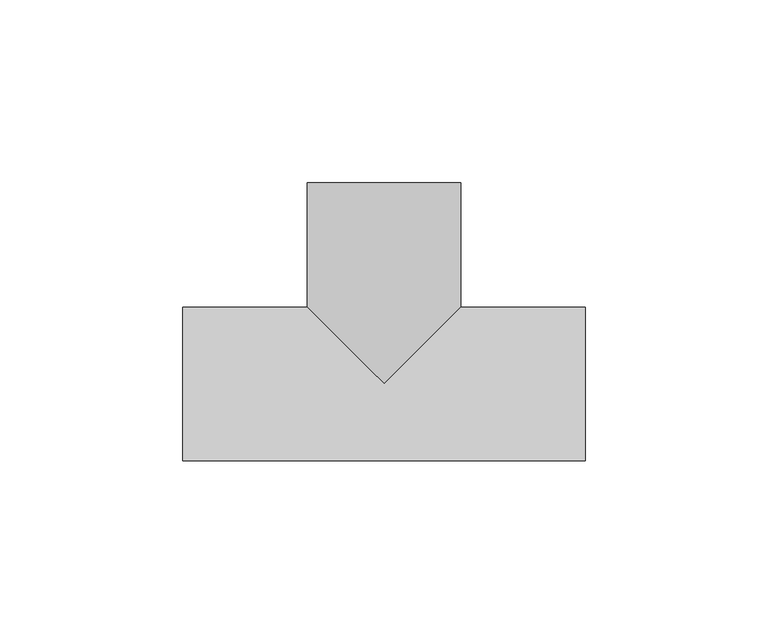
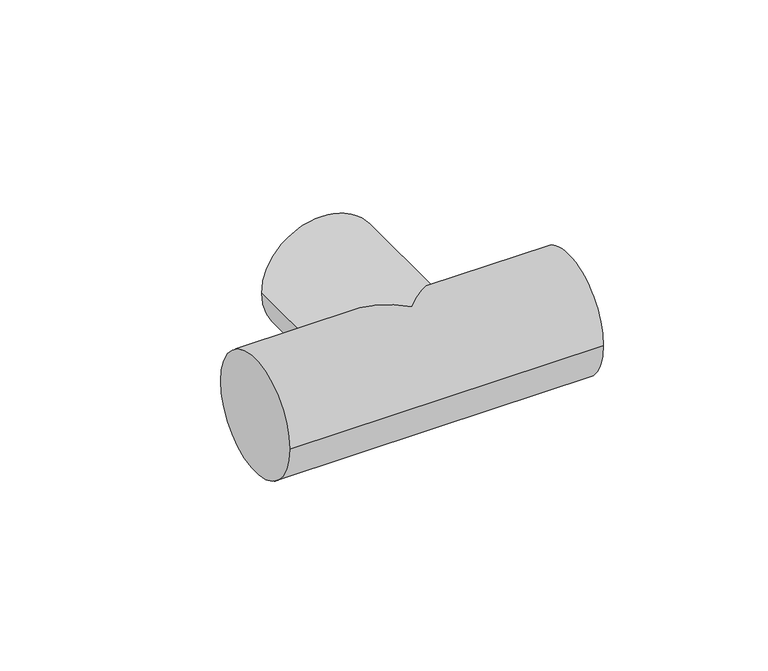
"""IFC4 building model written with IfcOpenShell, lengths in millimetres: cable carrier fitting geometry, Тройник открывающийся TIG : Тройник открывающийся TIG."""

from ifc_helpers import new_model, si_unit, frame, origin, place, context, project, spatial, circle_curve, ellipse_curve, source, transform, mapped, element, save
from ifc_brep_helpers import plane_surface, cylinder_surface, advanced_brep


def cable_carrier_fitting_2c533e93(model_context):
    return source(origin(), model_context, "Body", "AdvancedBrep", [
        advanced_brep(
        [(55.0, -21.0, 0.0), (55.0, 21.0, 0.0), (-55.0, -21.0, 0.0), (-55.0, 21.0, 0.0), (-21.0, 21.0, 0.0), (0.0, 0.0, -21.0), (21.0, 21.0, 0.0), (0.0, 0.0, 21.0), (-21.0, 55.0, 0.0), (21.0, 55.0, 0.0)],
        [
            (0, 1, circle_curve(frame((55.0, 0.0, 0.0), z_axis=(1.0, 0.0, 0.0), x_axis=(0.0, 1.0, 0.0)), 21.0)),
            (1, 0, circle_curve(frame((55.0, 0.0, 0.0), z_axis=(1.0, 0.0, 0.0), x_axis=(0.0, 1.0, 0.0)), 21.0)),
            (2, 3, circle_curve(frame((-55.0, 0.0, 0.0), z_axis=(-1.0, 0.0, 0.0), x_axis=(0.0, 1.0, 0.0)), 21.0)),
            (3, 2, circle_curve(frame((-55.0, 0.0, 0.0), z_axis=(-1.0, 0.0, 0.0), x_axis=(0.0, 1.0, 0.0)), 21.0)),
            (0, 2),
            (3, 4),
            (4, 5, ellipse_curve(frame((0.0, 0.0, 0.0), z_axis=(-0.7071067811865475, -0.7071067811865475, 0.0), x_axis=(0.7071067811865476, -0.7071067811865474, 0.0)), 29.6984848, 21.0)),
            (5, 6, ellipse_curve(frame((0.0, 0.0, 0.0), z_axis=(0.7071067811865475, -0.7071067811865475, 0.0), x_axis=(0.7071067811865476, 0.7071067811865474, 0.0)), 29.6984848, 21.0)),
            (6, 1),
            (6, 7, ellipse_curve(frame((0.0, 0.0, 0.0), z_axis=(0.7071067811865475, -0.7071067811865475, 0.0), x_axis=(0.7071067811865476, 0.7071067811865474, 0.0)), 29.6984848, 21.0)),
            (7, 4, ellipse_curve(frame((0.0, 0.0, 0.0), z_axis=(-0.7071067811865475, -0.7071067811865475, 0.0), x_axis=(0.7071067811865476, -0.7071067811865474, 0.0)), 29.6984848, 21.0)),
            (8, 9, circle_curve(frame((0.0, 55.0, 0.0), z_axis=(0.0, 1.0, 0.0), x_axis=(0.9999999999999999, 0.0, 0.0)), 21.0)),
            (9, 8, circle_curve(frame((0.0, 55.0, 0.0), z_axis=(0.0, 1.0, 0.0), x_axis=(0.9999999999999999, 0.0, 0.0)), 21.0)),
            (9, 6),
            (4, 8),
        ],
        [
            plane_surface(frame((55.0, 21.0, 0.0), z_axis=(0.9999999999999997, 0.0, 0.0), x_axis=(0.0, 0.0, 0.9999999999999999))),
            plane_surface(frame((-55.0, 21.0, 0.0), z_axis=(-0.9999999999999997, 0.0, 0.0), x_axis=(0.0, 0.0, -0.9999999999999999))),
            cylinder_surface(frame((-55.0, 0.0, 0.0), z_axis=(0.9999999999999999, 0.0, 0.0), x_axis=(0.0, 1.0, 0.0)), 21.0),
            plane_surface(frame((21.0, 55.0, 0.0), z_axis=(0.0, 0.9999999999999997, 0.0), x_axis=(0.0, 0.0, -0.9999999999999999))),
            cylinder_surface(frame((0.0, 55.0, 0.0), z_axis=(0.0, -0.9999999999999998, 0.0), x_axis=(0.9999999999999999, 0.0, 0.0)), 21.0),
        ],
        [
            (0, [[1, 2]]),
            (1, [[3, 4]]),
            (2, [[-1, 5, -4, 6, 7, 8, 9]]),
            (2, [[-2, -9, 10, 11, -6, -3, -5]]),
            (3, [[12, 13]]),
            (4, [[-13, 14, -8, -7, 15]]),
            (4, [[-12, -15, -11, -10, -14]]),
        ],
    ),
    ])


if __name__ == "__main__":
    model = new_model("IFC4")
    model_context = context("Model", 3, world=origin())
    ifc_project = project(units=[si_unit("LENGTHUNIT", "METRE", prefix="MILLI")], contexts=[model_context])
    site = spatial("IfcSite", under=ifc_project)
    building = spatial("IfcBuilding", under=site)
    placement = place(None, origin())
    cable_carrier_fitting_shape = cable_carrier_fitting_2c533e93(model_context)
    element("IfcCableCarrierFitting", 1, ObjectType="Тройник открывающийся TIG : Тройник открывающийся TIG", at=placement, inside=building, context=model_context, shape_type="MappedRepresentation", body=[
        mapped(cable_carrier_fitting_shape, transform((0.0, 0.0, 0.0), x_axis=(1.0, 0.0, 0.0), y_axis=(0.0, 1.0, 0.0), z_axis=(0.0, 0.0, 1.0))),
    ])
    save(model, "model.ifc")
